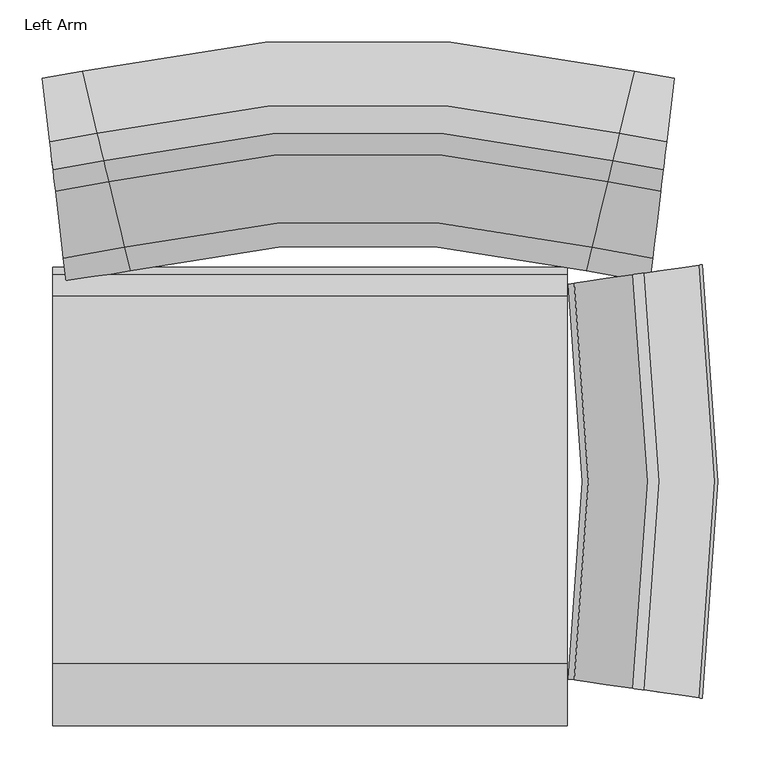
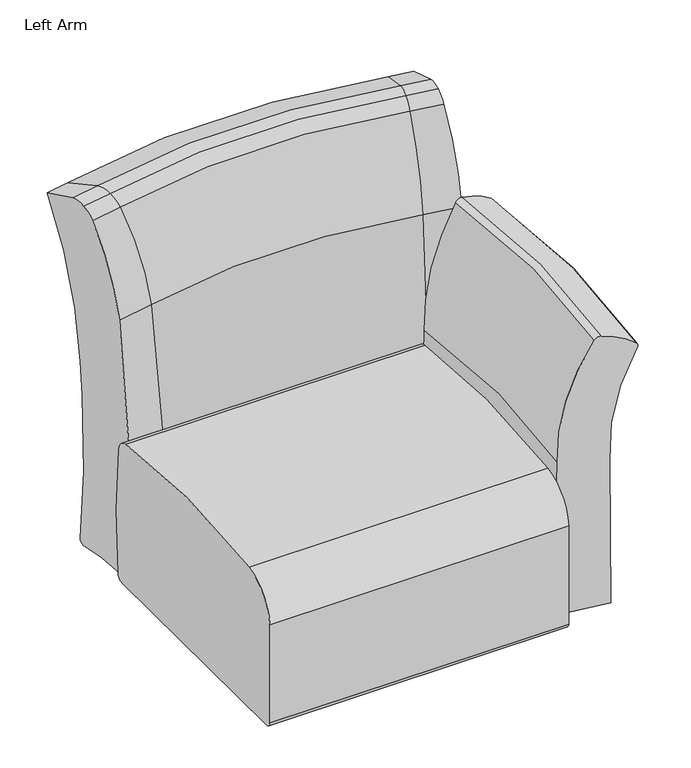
"""IFC4 building model written with IfcOpenShell, lengths in millimetres: furniture geometry, Steelcase Turnstone - Jenny - Seating - Lounge Chair : Left Arm."""

from ifc_helpers import new_model, si_unit, point, frame, frame_2d, origin, place, context, project, spatial, circle_curve, ellipse_curve, trimmed, segment, composite_curve, outline, extrude, source, transform, mapped, element, save
from ifc_brep_helpers import plane_surface, revolved_surface, advanced_brep


def left_arm_a03b13e4(model_context):
    return source(origin(), model_context, "Body", "SolidModel", [
        advanced_brep(
        [(338.5098126, 42.3528445, 662.4789574), (325.4819287, 44.2201227, 657.247673), (255.8979101, 54.1935554, 412.3486316), (248.568241, 55.2441122, 105.3934367), (268.92915, 52.3257962, 83.0261095), (356.1641561, 39.8224588, 83.0261095), (353.9234318, 40.1436204, 393.5179242), (406.2890311, 32.6380926, 620.5062548), (403.9913356, 32.9674199, 631.6323761), (338.5098126, 536.0945997, 662.4789574), (403.9913356, 545.4800243, 631.6323761), (406.2890311, 545.8093515, 620.5062548), (353.9234318, 538.3038238, 393.5179242), (356.1641561, 538.6249854, 83.0261095), (268.92915, 526.121648, 83.0261095), (248.568241, 523.203332, 105.3934367), (255.8979101, 524.2538887, 412.3486316), (325.4819287, 534.2273214, 657.247673)],
        [
            (0, 1, circle_curve(frame((335.7972968, 42.7416276, 650.2018378), z_axis=(-0.1418794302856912, -0.989883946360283, 0.0), x_axis=(-0.989883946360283, 0.1418794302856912, 0.0)), 12.5792115)),
            (1, 2, circle_curve(frame((662.6674144, -4.1084564, 426.9356418), z_axis=(-0.1418794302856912, -0.989883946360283, 0.0), x_axis=(-0.989883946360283, 0.1418794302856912, 0.0)), 411.1852807)),
            (2, 3, circle_curve(frame((-2293.785101, 419.6379839, 320.9153954), z_axis=(0.1418794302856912, 0.989883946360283, 0.0), x_axis=(-0.989883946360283, 0.1418794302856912, 0.0)), 2577.3616595)),
            (3, 4, circle_curve(frame((268.92915, 52.3257962, 103.6673891), z_axis=(-0.1418794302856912, -0.989883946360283, 0.0), x_axis=(-0.989883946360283, 0.1418794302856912, 0.0)), 20.6412796)),
            (4, 5),
            (5, 6, circle_curve(frame((-3376.7467903, 574.8581873, 210.7875713), z_axis=(-0.1418794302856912, -0.989883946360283, 0.0), x_axis=(-0.989883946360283, 0.1418794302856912, 0.0)), 3773.2228077)),
            (6, 7, circle_curve(frame((774.6383733, -20.157182, 414.1247817), z_axis=(0.1418794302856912, 0.989883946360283, 0.0), x_axis=(-0.989883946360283, 0.1418794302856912, 0.0)), 425.5136794)),
            (7, 8, circle_curve(frame((398.7600293, 33.7172196, 624.7246592), z_axis=(-0.1418794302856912, -0.989883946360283, 0.0), x_axis=(-0.989883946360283, 0.1418794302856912, 0.0)), 8.6974317)),
            (8, 0, circle_curve(frame((301.9143064, 47.5980549, 496.8440116), z_axis=(-0.1418794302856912, -0.989883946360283, 0.0), x_axis=(-0.989883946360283, 0.1418794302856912, 0.0)), 169.710573)),
            (9, 10, circle_curve(frame((301.9143064, 530.8493893, 496.8440116), z_axis=(-0.14187943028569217, 0.9898839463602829, 0.0), x_axis=(-0.9898839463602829, -0.14187943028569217, 0.0)), 169.710573)),
            (10, 11, circle_curve(frame((398.7600293, 544.7302245, 624.7246592), z_axis=(-0.14187943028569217, 0.9898839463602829, 0.0), x_axis=(-0.9898839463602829, -0.14187943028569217, 0.0)), 8.6974317)),
            (11, 12, circle_curve(frame((774.6383733, 598.6046262, 414.1247817), z_axis=(0.14187943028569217, -0.9898839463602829, 0.0), x_axis=(-0.9898839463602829, -0.14187943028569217, 0.0)), 425.5136794)),
            (12, 13, circle_curve(frame((-3376.7467903, 3.5892569, 210.7875713), z_axis=(-0.14187943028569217, 0.9898839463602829, 0.0), x_axis=(-0.9898839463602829, -0.14187943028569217, 0.0)), 3773.2228077)),
            (13, 14),
            (14, 15, circle_curve(frame((268.92915, 526.121648, 103.6673891), z_axis=(-0.14187943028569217, 0.9898839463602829, 0.0), x_axis=(-0.9898839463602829, -0.14187943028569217, 0.0)), 20.6412796)),
            (15, 16, circle_curve(frame((-2293.785101, 158.8094603, 320.9153954), z_axis=(0.14187943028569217, -0.9898839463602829, 0.0), x_axis=(-0.9898839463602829, -0.14187943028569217, 0.0)), 2577.3616595)),
            (16, 17, circle_curve(frame((662.6674144, 582.5559005, 426.9356418), z_axis=(-0.14187943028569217, 0.9898839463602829, 0.0), x_axis=(-0.9898839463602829, -0.14187943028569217, 0.0)), 411.1852807)),
            (17, 9, circle_curve(frame((335.7972968, 535.7058165, 650.2018378), z_axis=(-0.14187943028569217, 0.9898839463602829, 0.0), x_axis=(-0.9898839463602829, -0.14187943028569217, 0.0)), 12.5792115)),
            (17, 1, circle_curve(frame((-1383.8929209, 289.2237221, 657.247673), z_axis=(0.0, 0.0, -1.0), x_axis=(0.989883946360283, -0.1418794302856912, 0.0)), 1726.8436929)),
            (0, 9, circle_curve(frame((-1383.8929209, 289.2237221, 662.4789574), z_axis=(0.0, 0.0, 1.0), x_axis=(0.989883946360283, -0.1418794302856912, 0.0)), 1740.0047145)),
            (16, 2, circle_curve(frame((-1383.8929209, 289.2237221, 412.3486316), z_axis=(0.0, 0.0, -1.0), x_axis=(0.989883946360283, -0.1418794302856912, 0.0)), 1656.5485651)),
            (15, 3, circle_curve(frame((-1383.8929209, 289.2237221, 105.3934367), z_axis=(0.0, 0.0, -1.0), x_axis=(0.989883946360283, -0.1418794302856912, 0.0)), 1649.1439909)),
            (14, 4, circle_curve(frame((-1383.8929209, 289.2237221, 83.0261095), z_axis=(0.0, 0.0, -1.0), x_axis=(0.989883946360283, -0.1418794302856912, 0.0)), 1669.7129769)),
            (13, 5, circle_curve(frame((-1383.8929209, 289.2237221, 83.0261095), z_axis=(0.0, 0.0, -1.0), x_axis=(0.989883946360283, -0.1418794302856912, 0.0)), 1757.8394754)),
            (12, 6, circle_curve(frame((-1383.8929209, 289.2237221, 393.5179242), z_axis=(0.0, 0.0, -1.0), x_axis=(0.989883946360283, -0.1418794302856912, 0.0)), 1755.5758521)),
            (11, 7, circle_curve(frame((-1383.8929209, 289.2237221, 620.5062548), z_axis=(0.0, 0.0, -1.0), x_axis=(0.989883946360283, -0.1418794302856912, 0.0)), 1808.4765982)),
            (10, 8, circle_curve(frame((-1383.8929209, 289.2237221, 631.6323761), z_axis=(0.0, 0.0, -1.0), x_axis=(0.989883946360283, -0.1418794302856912, 0.0)), 1806.1554216)),
        ],
        [
            plane_surface(frame((321.793924, 44.7487221, 0.0), z_axis=(-0.14187943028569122, -0.9898839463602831, 0.0), x_axis=(0.0, 0.0, 1.0))),
            plane_surface(frame((321.793924, 533.6987221, 0.0), z_axis=(-0.1418794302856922, 0.9898839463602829, 0.0), x_axis=(0.0, 0.0, 1.0))),
            revolved_surface(trimmed(ellipse_curve(frame((335.7972968, 42.7416276, 650.2018378), z_axis=(-0.1418794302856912, -0.989883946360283, 0.0), x_axis=(-0.989883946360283, 0.1418794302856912, 0.0)), 12.5792115, 12.5792115), [point((338.5098126, 42.3528445, 662.4789574))], [point((325.4819287, 44.2201227, 657.247673))], True, "CARTESIAN"), (-1383.8929209, 289.2237221, 0.0), (0.0, 0.0, 1.0)),
            revolved_surface(trimmed(ellipse_curve(frame((662.6674144, -4.1084564, 426.9356418), z_axis=(-0.1418794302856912, -0.989883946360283, 0.0), x_axis=(-0.989883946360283, 0.1418794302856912, 0.0)), 411.1852807, 411.1852807), [point((325.4819287, 44.2201227, 657.247673))], [point((255.8979101, 54.1935554, 412.3486316))], True, "CARTESIAN"), (-1383.8929209, 289.2237221, 0.0), (0.0, 0.0, 1.0)),
            revolved_surface(trimmed(ellipse_curve(frame((-2293.785101, 419.6379839, 320.9153954), z_axis=(0.1418794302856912, 0.989883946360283, 0.0), x_axis=(-0.989883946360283, 0.1418794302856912, 0.0)), 2577.3616595, 2577.3616595), [point((255.8979101, 54.1935554, 412.3486316))], [point((248.568241, 55.2441122, 105.3934367))], True, "CARTESIAN"), (-1383.8929209, 289.2237221, 0.0), (0.0, 0.0, 1.0)),
            revolved_surface(trimmed(ellipse_curve(frame((268.92915, 52.3257962, 103.6673891), z_axis=(-0.1418794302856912, -0.989883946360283, 0.0), x_axis=(-0.989883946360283, 0.1418794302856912, 0.0)), 20.6412796, 20.6412796), [point((248.568241, 55.2441122, 105.3934367))], [point((268.92915, 52.3257962, 83.0261095))], True, "CARTESIAN"), (-1383.8929209, 289.2237221, 0.0), (0.0, 0.0, 1.0)),
            plane_surface(frame((-1383.8929209, 289.2237221, 83.0261095), z_axis=(0.0, 0.0, -1.0000000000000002), x_axis=(0.9898839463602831, -0.14187943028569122, 0.0))),
            revolved_surface(trimmed(ellipse_curve(frame((-3376.7467903, 574.8581873, 210.7875713), z_axis=(-0.1418794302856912, -0.989883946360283, 0.0), x_axis=(-0.989883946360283, 0.1418794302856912, 0.0)), 3773.2228077, 3773.2228077), [point((356.1641561, 39.8224588, 83.0261095))], [point((353.9234318, 40.1436204, 393.5179242))], True, "CARTESIAN"), (-1383.8929209, 289.2237221, 0.0), (0.0, 0.0, 1.0)),
            revolved_surface(trimmed(ellipse_curve(frame((774.6383733, -20.157182, 414.1247817), z_axis=(0.1418794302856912, 0.989883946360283, 0.0), x_axis=(-0.989883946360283, 0.1418794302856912, 0.0)), 425.5136794, 425.5136794), [point((353.9234318, 40.1436204, 393.5179242))], [point((406.2890311, 32.6380926, 620.5062548))], True, "CARTESIAN"), (-1383.8929209, 289.2237221, 0.0), (0.0, 0.0, 1.0)),
            revolved_surface(trimmed(ellipse_curve(frame((398.7600293, 33.7172196, 624.7246592), z_axis=(-0.1418794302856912, -0.989883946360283, 0.0), x_axis=(-0.989883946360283, 0.1418794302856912, 0.0)), 8.6974317, 8.6974317), [point((406.2890311, 32.6380926, 620.5062548))], [point((403.9913356, 32.9674199, 631.6323761))], True, "CARTESIAN"), (-1383.8929209, 289.2237221, 0.0), (0.0, 0.0, 1.0)),
            revolved_surface(trimmed(ellipse_curve(frame((301.9143064, 47.5980549, 496.8440116), z_axis=(-0.1418794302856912, -0.989883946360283, 0.0), x_axis=(-0.989883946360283, 0.1418794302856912, 0.0)), 169.710573, 169.710573), [point((403.9913356, 32.9674199, 631.6323761))], [point((338.5098126, 42.3528445, 662.4789574))], True, "CARTESIAN"), (-1383.8929209, 289.2237221, 0.0), (0.0, 0.0, 1.0)),
        ],
        [
            (0, [[1, 2, 3, 4, 5, 6, 7, 8, 9]]),
            (1, [[10, 11, 12, 13, 14, 15, 16, 17, 18]]),
            (2, [[19, -1, 20, -18]]),
            (3, [[21, -2, -19, -17]]),
            (4, [[22, -3, -21, -16]]),
            (5, [[23, -4, -22, -15]]),
            (6, [[24, -5, -23, -14]]),
            (7, [[25, -6, -24, -13]]),
            (8, [[26, -7, -25, -12]]),
            (9, [[27, -8, -26, -11]]),
            (10, [[-20, -9, -27, -10]]),
        ],
    ),
        extrude(outline(composite_curve([segment(trimmed(circle_curve(frame_2d((295.9448235, -1001.9734672)), 1409.8455938), [point((73.6948235, 390.2440215))], [point((509.3958902, 391.6201753))], False, "CARTESIAN"), True, "CONTINUOUS"), segment(trimmed(circle_curve(frame_2d((504.9855283, 362.825509)), 29.1304669), [point((509.3958902, 391.6201753))], [point((533.8942756, 366.4127691))], False, "CARTESIAN"), True, "CONTINUOUS"), segment(trimmed(circle_curve(frame_2d((-629.8512072, 222.0046519)), 1172.6709909), [point((533.8942756, 366.4127691))], [point((536.0042378, 95.7575362))], False, "CARTESIAN"), True, "CONTINUOUS"), segment(trimmed(circle_curve(frame_2d((523.173628, 97.1469259)), 12.9056171), [point((536.0042378, 95.7575362))], [point((523.4804674, 84.244957))], False, "CARTESIAN"), True, "CONTINUOUS"), segment(trimmed(circle_curve(frame_2d((320.8347088, 8605.0850806)), 8523.249481), [point((523.4804674, 84.244957))], [point((12.6556229, 87.4089088))], False, "CARTESIAN"), True, "CONTINUOUS"), segment(trimmed(circle_curve(frame_2d((13.132469, 100.5883266)), 13.1880413), [point((12.6556229, 87.4089088))], [point((0.0, 99.3789084))], False, "CARTESIAN"), True, "CONTINUOUS"), segment(trimmed(circle_curve(frame_2d((1151.5533041, 205.4297595)), 1156.4263034), [point((0.0, 99.3789084))], [point((0.0, 311.4806107))], False, "CARTESIAN"), True, "CONTINUOUS"), segment(trimmed(circle_curve(frame_2d((87.555619, 303.4172862)), 87.9261259), [point((0.0, 311.4806107))], [point((73.6948235, 390.2440215))], False, "CARTESIAN"), True, "CONTINUOUS")], self_intersect=False)), frame((-361.95, 0.0, 0.0), z_axis=(1.0, 0.0, 0.0), x_axis=(0.0, 1.0, 0.0)), (0.0, 0.0, 1.0), 609.6),
        advanced_brep(
        [(-365.286616, 691.4565759, 813.9027777), (-374.1581434, 766.5452606, 782.2939395), (-362.648411, 669.1267858, 474.5451921), (-361.9534589, 663.244705, 404.1661408), (-361.3770167, 658.3656933, 241.4197302), (-362.6146384, 668.8409343, 92.210125), (-361.3954165, 658.5214293, 82.3084573), (-349.0009614, 553.6146536, 81.9987921), (-346.7002803, 534.1416683, 97.0710008), (-349.0142051, 553.7267481, 627.8736036), (-358.4008193, 633.1751322, 797.7221008), (-361.3730638, 658.3322355, 814.4538477), (-326.9667617, 774.979302, 782.2939395), (-309.2801577, 701.4660474, 813.9027777), (-304.020535, 679.604757, 474.5451921), (-302.6350528, 673.8460877, 404.1661408), (-301.4858364, 669.0694421, 241.4197302), (-303.9532047, 679.3249029, 92.210125), (-301.5225189, 669.2219106, 82.3084573), (-276.8124763, 566.5161761, 81.9987921), (-272.2257535, 547.451752, 97.0710008), (-276.8388793, 566.6259188, 627.8736036), (-295.5523794, 644.4074023, 797.7221008), (-301.4779556, 669.0366863, 814.4538477), (326.9667617, 774.979302, 782.2939395), (309.2801577, 701.4660474, 813.9027777), (304.020535, 679.604757, 474.5451921), (302.6350528, 673.8460877, 404.1661408), (301.4858364, 669.0694421, 241.4197302), (303.9532047, 679.3249029, 92.210125), (301.5225189, 669.2219106, 82.3084573), (276.8124763, 566.5161761, 81.9987921), (272.2257535, 547.451752, 97.0710008), (276.8388793, 566.6259188, 627.8736036), (295.5523794, 644.4074023, 797.7221008), (301.4779556, 669.0366863, 814.4538477), (365.286616, 691.4565759, 813.9027777), (361.3730638, 658.3322355, 814.4538477), (358.4008193, 633.1751322, 797.7221008), (349.0142051, 553.7267481, 627.8736036), (346.7002803, 534.1416683, 97.0710008), (349.0009614, 553.6146536, 81.9987921), (361.3954165, 658.5214293, 82.3084573), (362.6146384, 668.8409343, 92.210125), (361.3770167, 658.3656933, 241.4197302), (361.9534589, 663.244705, 404.1661408), (362.648411, 669.1267858, 474.5451921), (374.1581434, 766.5452606, 782.2939395)],
        [
            (0, 1, circle_curve(frame((-341.1261096, 486.9618391, 215.0940543), z_axis=(-0.9930928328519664, -0.11733126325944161, 0.0), x_axis=(-0.11733126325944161, 0.9930928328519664, 0.0)), 633.2248531)),
            (1, 2, circle_curve(frame((-441.9489126, 1340.3269208, 428.618251), z_axis=(0.9930928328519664, 0.11733126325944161, 0.0), x_axis=(-0.11733126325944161, 0.9930928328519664, 0.0)), 677.4270991)),
            (2, 3, circle_curve(frame((-106.0716484, -1502.5411649, 623.1418041), z_axis=(-0.9930928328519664, -0.11733126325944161, 0.0), x_axis=(-0.11733126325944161, 0.9930928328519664, 0.0)), 2191.8152925)),
            (3, 4, circle_curve(frame((-498.0432857, 1815.1101831, 287.7047166), z_axis=(0.9930928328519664, 0.11733126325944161, 0.0), x_axis=(-0.11733126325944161, 0.9930928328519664, 0.0)), 1165.7091335)),
            (4, 5, circle_curve(frame((-645.5581159, 3063.6769889, 337.6638027), z_axis=(0.9930928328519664, 0.11733126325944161, 0.0), x_axis=(-0.11733126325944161, 0.9930928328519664, 0.0)), 2423.9521958)),
            (5, 6, circle_curve(frame((-361.5543466, 659.8666153, 91.290321), z_axis=(-0.9930928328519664, -0.11733126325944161, 0.0), x_axis=(-0.11733126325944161, 0.9930928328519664, 0.0)), 9.0834278)),
            (6, 7, circle_curve(frame((-355.3163018, 607.0677497, -261.2499371), z_axis=(0.9930928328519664, 0.11733126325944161, 0.0), x_axis=(-0.11733126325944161, 0.9930928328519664, 0.0)), 347.443243)),
            (7, 8, circle_curve(frame((-348.6908883, 550.9901919, 98.8517567), z_axis=(-0.9930928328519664, -0.11733126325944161, 0.0), x_axis=(-0.11733126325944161, 0.9930928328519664, 0.0)), 17.0589085)),
            (8, 9, circle_curve(frame((-566.1189152, 2391.3029031, 293.3582769), z_axis=(-0.9930928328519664, -0.11733126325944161, 0.0), x_axis=(-0.11733126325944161, 0.9930928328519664, 0.0)), 1880.3513194)),
            (9, 10, circle_curve(frame((-390.9633635, 908.7847898, 563.2382651), z_axis=(-0.9930928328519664, -0.11733126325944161, 0.0), x_axis=(-0.11733126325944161, 0.9930928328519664, 0.0)), 363.3230957)),
            (10, 11, circle_curve(frame((-363.2305214, 674.0537729, 762.9432742), z_axis=(-0.9930928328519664, -0.11733126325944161, 0.0), x_axis=(-0.11733126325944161, 0.9930928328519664, 0.0)), 53.8883667)),
            (11, 0, circle_curve(frame((-363.2305214, 674.0537729, 762.9432742), z_axis=(-0.9930928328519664, -0.11733126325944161, 0.0), x_axis=(-0.11733126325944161, 0.9930928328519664, 0.0)), 53.8883667)),
            (12, 1, circle_curve(frame((-421.6517332, 1168.5314176, 782.2939395), z_axis=(0.0, 0.0, -1.0), x_axis=(0.1173312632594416, -0.9930928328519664, 0.0)), 404.7820543)),
            (0, 13, circle_curve(frame((-421.6517332, 1168.5314176, 813.9027777), z_axis=(0.0, 0.0, 1.0), x_axis=(0.1173312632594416, -0.9930928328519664, 0.0)), 480.3929964)),
            (13, 12, circle_curve(frame((-261.1128813, 501.2617994, 215.0940543), z_axis=(-0.9722568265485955, -0.23391593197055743, 0.0), x_axis=(-0.23391593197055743, 0.9722568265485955, 0.0)), 633.2248531)),
            (14, 2, circle_curve(frame((-421.6517332, 1168.5314176, 474.5451921), z_axis=(0.0, 0.0, -1.0), x_axis=(0.1173312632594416, -0.9930928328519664, 0.0)), 502.8780948)),
            (12, 14, circle_curve(frame((-462.1169383, 1336.7224922, 428.618251), z_axis=(0.9722568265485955, 0.23391593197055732, 0.0), x_axis=(-0.23391593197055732, 0.9722568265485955, 0.0)), 677.4270991)),
            (15, 3, circle_curve(frame((-421.6517332, 1168.5314176, 404.1661408), z_axis=(0.0, 0.0, -1.0), x_axis=(0.1173312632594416, -0.9930928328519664, 0.0)), 508.8010867)),
            (14, 15, circle_curve(frame((207.500358, -1446.4995912, 623.1418041), z_axis=(-0.9722568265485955, -0.2339159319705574, 0.0), x_axis=(-0.2339159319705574, 0.9722568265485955, 0.0)), 2191.8152925)),
            (16, 4, circle_curve(frame((-421.6517332, 1168.5314176, 241.4197302), z_axis=(0.0, 0.0, -1.0), x_axis=(0.1173312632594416, -0.9930928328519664, 0.0)), 513.714033)),
            (15, 16, circle_curve(frame((-573.9487486, 1801.5443625, 287.7047166), z_axis=(0.9722568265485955, 0.23391593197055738, 0.0), x_axis=(-0.23391593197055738, 0.9722568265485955, 0.0)), 1165.7091335)),
            (17, 5, circle_curve(frame((-421.6517332, 1168.5314176, 92.210125), z_axis=(0.0, 0.0, -1.0), x_axis=(0.1173312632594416, -0.9930928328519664, 0.0)), 503.1659344)),
            (16, 17, circle_curve(frame((-868.0397524, 3023.9150817, 337.6638027), z_axis=(0.9722568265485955, 0.2339159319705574, 0.0), x_axis=(-0.2339159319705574, 0.9722568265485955, 0.0)), 2423.9521958)),
            (18, 6, circle_curve(frame((-421.6517332, 1168.5314176, 82.3084573), z_axis=(0.0, 0.0, -1.0), x_axis=(0.1173312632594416, -0.9930928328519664, 0.0)), 513.5572138)),
            (17, 18, circle_curve(frame((-301.8393678, 670.5388734, 91.290321), z_axis=(-0.9722568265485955, -0.23391593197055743, 0.0), x_axis=(-0.23391593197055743, 0.9722568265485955, 0.0)), 9.0834278)),
            (19, 7, circle_curve(frame((-421.6517332, 1168.5314176, 81.9987921), z_axis=(0.0, 0.0, -1.0), x_axis=(0.1173312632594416, -0.9930928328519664, 0.0)), 619.193638)),
            (18, 19, circle_curve(frame((-289.4029717, 618.8477768, -261.2499371), z_axis=(0.9722568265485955, 0.2339159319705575, 0.0), x_axis=(-0.2339159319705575, 0.9722568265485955, 0.0)), 347.443243)),
            (20, 8, circle_curve(frame((-421.6517332, 1168.5314176, 97.0710008), z_axis=(0.0, 0.0, -1.0), x_axis=(0.1173312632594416, -0.9930928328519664, 0.0)), 638.8020619)),
            (19, 20, circle_curve(frame((-276.194303, 563.9467781, 98.8517567), z_axis=(-0.9722568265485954, -0.23391593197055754, 0.0), x_axis=(-0.23391593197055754, 0.9722568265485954, 0.0)), 17.0589085)),
            (21, 9, circle_curve(frame((-421.6517332, 1168.5314176, 627.8736036), z_axis=(0.0, 0.0, -1.0), x_axis=(0.1173312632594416, -0.9930928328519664, 0.0)), 619.0807637)),
            (20, 21, circle_curve(frame((-709.6668332, 2365.6480262, 293.3582769), z_axis=(-0.9722568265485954, -0.23391593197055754, 0.0), x_axis=(-0.23391593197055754, 0.9722568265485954, 0.0)), 1880.3513194)),
            (22, 10, circle_curve(frame((-421.6517332, 1168.5314176, 797.7221008), z_axis=(0.0, 0.0, -1.0), x_axis=(0.1173312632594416, -0.9930928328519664, 0.0)), 539.0797997)),
            (21, 22, circle_curve(frame((-360.4702681, 914.2345144, 563.2382651), z_axis=(-0.9722568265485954, -0.23391593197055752, 0.0), x_axis=(-0.23391593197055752, 0.9722568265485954, 0.0)), 363.3230957)),
            (23, 11, circle_curve(frame((-421.6517332, 1168.5314176, 814.4538477), z_axis=(0.0, 0.0, -1.0), x_axis=(0.1173312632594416, -0.9930928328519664, 0.0)), 513.7477235)),
            (22, 23, circle_curve(frame((-305.1810516, 684.4283713, 762.9432742), z_axis=(-0.9722568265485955, -0.2339159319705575, 0.0), x_axis=(-0.2339159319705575, 0.9722568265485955, 0.0)), 53.8883667)),
            (23, 13, circle_curve(frame((-305.1810516, 684.4283713, 762.9432742), z_axis=(-0.9722568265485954, -0.23391593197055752, 0.0), x_axis=(-0.23391593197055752, 0.9722568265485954, 0.0)), 53.8883667)),
            (24, 12, circle_curve(frame((0.0, -584.0374329, 782.2939395), z_axis=(0.0, 0.0, 1.0), x_axis=(-0.23391593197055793, 0.9722568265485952, 0.0)), 1397.7960327)),
            (13, 25, circle_curve(frame((0.0, -584.0374329, 813.9027777), z_axis=(0.0, 0.0, -1.0), x_axis=(-0.23391593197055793, 0.9722568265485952, 0.0)), 1322.1850906)),
            (25, 24, circle_curve(frame((261.1128813, 501.2617994, 215.0940543), z_axis=(-0.9722568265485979, 0.23391593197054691, 0.0), x_axis=(0.23391593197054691, 0.9722568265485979, 0.0)), 633.2248531)),
            (26, 14, circle_curve(frame((0.0, -584.0374329, 474.5451921), z_axis=(0.0, 0.0, 1.0), x_axis=(-0.23391593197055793, 0.9722568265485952, 0.0)), 1299.6999922)),
            (24, 26, circle_curve(frame((462.1169383, 1336.7224922, 428.618251), z_axis=(0.9722568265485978, -0.23391593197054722, 0.0), x_axis=(0.23391593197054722, 0.9722568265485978, 0.0)), 677.4270991)),
            (27, 15, circle_curve(frame((0.0, -584.0374329, 404.1661408), z_axis=(0.0, 0.0, 1.0), x_axis=(-0.23391593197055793, 0.9722568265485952, 0.0)), 1293.7770003)),
            (26, 27, circle_curve(frame((-207.500358, -1446.4995912, 623.1418041), z_axis=(-0.9722568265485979, 0.23391593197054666, 0.0), x_axis=(0.23391593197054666, 0.9722568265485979, 0.0)), 2191.8152925)),
            (28, 16, circle_curve(frame((0.0, -584.0374329, 241.4197302), z_axis=(0.0, 0.0, 1.0), x_axis=(-0.23391593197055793, 0.9722568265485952, 0.0)), 1288.864054)),
            (27, 28, circle_curve(frame((573.9487486, 1801.5443625, 287.7047166), z_axis=(0.9722568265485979, -0.23391593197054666, 0.0), x_axis=(0.23391593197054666, 0.9722568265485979, 0.0)), 1165.7091335)),
            (29, 17, circle_curve(frame((0.0, -584.0374329, 92.210125), z_axis=(0.0, 0.0, 1.0), x_axis=(-0.23391593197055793, 0.9722568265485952, 0.0)), 1299.4121525)),
            (28, 29, circle_curve(frame((868.0397524, 3023.9150817, 337.6638027), z_axis=(0.9722568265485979, -0.23391593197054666, 0.0), x_axis=(0.23391593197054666, 0.9722568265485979, 0.0)), 2423.9521958)),
            (30, 18, circle_curve(frame((0.0, -584.0374329, 82.3084573), z_axis=(0.0, 0.0, 1.0), x_axis=(-0.23391593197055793, 0.9722568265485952, 0.0)), 1289.0208732)),
            (29, 30, circle_curve(frame((301.8393678, 670.5388734, 91.290321), z_axis=(-0.9722568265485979, 0.23391593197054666, 0.0), x_axis=(0.23391593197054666, 0.9722568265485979, 0.0)), 9.0834278)),
            (31, 19, circle_curve(frame((0.0, -584.0374329, 81.9987921), z_axis=(0.0, 0.0, 1.0), x_axis=(-0.23391593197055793, 0.9722568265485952, 0.0)), 1183.384449)),
            (30, 31, circle_curve(frame((289.4029717, 618.8477768, -261.2499371), z_axis=(0.9722568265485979, -0.23391593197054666, 0.0), x_axis=(0.23391593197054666, 0.9722568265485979, 0.0)), 347.443243)),
            (32, 20, circle_curve(frame((0.0, -584.0374329, 97.0710008), z_axis=(0.0, 0.0, 1.0), x_axis=(-0.23391593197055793, 0.9722568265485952, 0.0)), 1163.776025)),
            (31, 32, circle_curve(frame((276.194303, 563.9467781, 98.8517567), z_axis=(-0.9722568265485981, 0.23391593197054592, 0.0), x_axis=(0.23391593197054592, 0.9722568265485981, 0.0)), 17.0589085)),
            (33, 21, circle_curve(frame((0.0, -584.0374329, 627.8736036), z_axis=(0.0, 0.0, 1.0), x_axis=(-0.23391593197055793, 0.9722568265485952, 0.0)), 1183.4973232)),
            (32, 33, circle_curve(frame((709.6668332, 2365.6480262, 293.3582769), z_axis=(-0.9722568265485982, 0.23391593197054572, 0.0), x_axis=(0.23391593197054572, 0.9722568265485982, 0.0)), 1880.3513194)),
            (34, 22, circle_curve(frame((0.0, -584.0374329, 797.7221008), z_axis=(0.0, 0.0, 1.0), x_axis=(-0.23391593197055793, 0.9722568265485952, 0.0)), 1263.4982873)),
            (33, 34, circle_curve(frame((360.4702681, 914.2345144, 563.2382651), z_axis=(-0.9722568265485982, 0.2339159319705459, 0.0), x_axis=(0.2339159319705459, 0.9722568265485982, 0.0)), 363.3230957)),
            (35, 23, circle_curve(frame((0.0, -584.0374329, 814.4538477), z_axis=(0.0, 0.0, 1.0), x_axis=(-0.23391593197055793, 0.9722568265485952, 0.0)), 1288.8303635)),
            (34, 35, circle_curve(frame((305.1810516, 684.4283713, 762.9432742), z_axis=(-0.972256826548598, 0.23391593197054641, 0.0), x_axis=(0.23391593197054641, 0.972256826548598, 0.0)), 53.8883667)),
            (35, 25, circle_curve(frame((305.1810516, 684.4283713, 762.9432742), z_axis=(-0.972256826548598, 0.23391593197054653, 0.0), x_axis=(0.23391593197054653, 0.972256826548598, 0.0)), 53.8883667)),
            (36, 37, circle_curve(frame((363.2305214, 674.0537729, 762.9432742), z_axis=(0.9930928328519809, -0.11733126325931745, 0.0), x_axis=(0.11733126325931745, 0.9930928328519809, 0.0)), 53.8883667)),
            (37, 38, circle_curve(frame((363.2305214, 674.0537729, 762.9432742), z_axis=(0.9930928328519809, -0.11733126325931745, 0.0), x_axis=(0.11733126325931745, 0.9930928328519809, 0.0)), 53.8883667)),
            (38, 39, circle_curve(frame((390.9633635, 908.7847898, 563.2382651), z_axis=(0.9930928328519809, -0.11733126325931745, 0.0), x_axis=(0.11733126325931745, 0.9930928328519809, 0.0)), 363.3230957)),
            (39, 40, circle_curve(frame((566.1189152, 2391.3029031, 293.3582769), z_axis=(0.9930928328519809, -0.11733126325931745, 0.0), x_axis=(0.11733126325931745, 0.9930928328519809, 0.0)), 1880.3513194)),
            (40, 41, circle_curve(frame((348.6908883, 550.9901919, 98.8517567), z_axis=(0.9930928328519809, -0.11733126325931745, 0.0), x_axis=(0.11733126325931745, 0.9930928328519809, 0.0)), 17.0589085)),
            (41, 42, circle_curve(frame((355.3163018, 607.0677497, -261.2499371), z_axis=(-0.9930928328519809, 0.11733126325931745, 0.0), x_axis=(0.11733126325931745, 0.9930928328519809, 0.0)), 347.443243)),
            (42, 43, circle_curve(frame((361.5543466, 659.8666153, 91.290321), z_axis=(0.9930928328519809, -0.11733126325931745, 0.0), x_axis=(0.11733126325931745, 0.9930928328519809, 0.0)), 9.0834278)),
            (43, 44, circle_curve(frame((645.5581159, 3063.6769889, 337.6638027), z_axis=(-0.9930928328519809, 0.11733126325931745, 0.0), x_axis=(0.11733126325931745, 0.9930928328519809, 0.0)), 2423.9521958)),
            (44, 45, circle_curve(frame((498.0432857, 1815.1101831, 287.7047166), z_axis=(-0.9930928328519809, 0.11733126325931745, 0.0), x_axis=(0.11733126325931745, 0.9930928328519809, 0.0)), 1165.7091335)),
            (45, 46, circle_curve(frame((106.0716484, -1502.5411649, 623.1418041), z_axis=(0.9930928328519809, -0.11733126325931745, 0.0), x_axis=(0.11733126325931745, 0.9930928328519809, 0.0)), 2191.8152925)),
            (46, 47, circle_curve(frame((441.9489126, 1340.3269208, 428.618251), z_axis=(-0.9930928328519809, 0.11733126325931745, 0.0), x_axis=(0.11733126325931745, 0.9930928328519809, 0.0)), 677.4270991)),
            (47, 36, circle_curve(frame((341.1261096, 486.9618391, 215.0940543), z_axis=(0.9930928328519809, -0.11733126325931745, 0.0), x_axis=(0.11733126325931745, 0.9930928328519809, 0.0)), 633.2248531)),
            (47, 24, circle_curve(frame((421.6517332, 1168.5314176, 782.2939395), z_axis=(0.0, 0.0, -1.0), x_axis=(-0.2339159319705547, -0.972256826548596, 0.0)), 404.7820543)),
            (25, 36, circle_curve(frame((421.6517332, 1168.5314176, 813.9027777), z_axis=(0.0, 0.0, 1.0), x_axis=(-0.2339159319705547, -0.972256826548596, 0.0)), 480.3929964)),
            (46, 26, circle_curve(frame((421.6517332, 1168.5314176, 474.5451921), z_axis=(0.0, 0.0, -1.0), x_axis=(-0.2339159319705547, -0.972256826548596, 0.0)), 502.8780948)),
            (45, 27, circle_curve(frame((421.6517332, 1168.5314176, 404.1661408), z_axis=(0.0, 0.0, -1.0), x_axis=(-0.2339159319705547, -0.972256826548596, 0.0)), 508.8010867)),
            (44, 28, circle_curve(frame((421.6517332, 1168.5314176, 241.4197302), z_axis=(0.0, 0.0, -1.0), x_axis=(-0.2339159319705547, -0.972256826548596, 0.0)), 513.714033)),
            (43, 29, circle_curve(frame((421.6517332, 1168.5314176, 92.210125), z_axis=(0.0, 0.0, -1.0), x_axis=(-0.2339159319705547, -0.972256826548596, 0.0)), 503.1659344)),
            (42, 30, circle_curve(frame((421.6517332, 1168.5314176, 82.3084573), z_axis=(0.0, 0.0, -1.0), x_axis=(-0.2339159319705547, -0.972256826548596, 0.0)), 513.5572138)),
            (41, 31, circle_curve(frame((421.6517332, 1168.5314176, 81.9987921), z_axis=(0.0, 0.0, -1.0), x_axis=(-0.2339159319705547, -0.972256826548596, 0.0)), 619.193638)),
            (40, 32, circle_curve(frame((421.6517332, 1168.5314176, 97.0710008), z_axis=(0.0, 0.0, -1.0), x_axis=(-0.2339159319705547, -0.972256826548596, 0.0)), 638.8020619)),
            (39, 33, circle_curve(frame((421.6517332, 1168.5314176, 627.8736036), z_axis=(0.0, 0.0, -1.0), x_axis=(-0.2339159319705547, -0.972256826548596, 0.0)), 619.0807637)),
            (38, 34, circle_curve(frame((421.6517332, 1168.5314176, 797.7221008), z_axis=(0.0, 0.0, -1.0), x_axis=(-0.2339159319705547, -0.972256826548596, 0.0)), 539.0797997)),
            (37, 35, circle_curve(frame((421.6517332, 1168.5314176, 814.4538477), z_axis=(0.0, 0.0, -1.0), x_axis=(-0.2339159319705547, -0.972256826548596, 0.0)), 513.7477235)),
        ],
        [
            plane_surface(frame((-355.6, 609.4689735, 0.0), z_axis=(-0.9930928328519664, -0.11733126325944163, 0.0), x_axis=(0.0, 0.0, 1.0))),
            revolved_surface(trimmed(ellipse_curve(frame((-341.1261096, 486.9618391, 215.0940543), z_axis=(-0.9930928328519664, -0.11733126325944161, 0.0), x_axis=(-0.11733126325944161, 0.9930928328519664, 0.0)), 633.2248531, 633.2248531), [point((-365.286616, 691.4565759, 813.9027777))], [point((-374.1581434, 766.5452606, 782.2939395))], True, "CARTESIAN"), (-421.6517332, 1168.5314176, 0.0), (0.0, 0.0, 1.0)),
            revolved_surface(trimmed(ellipse_curve(frame((-441.9489126, 1340.3269208, 428.618251), z_axis=(0.9930928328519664, 0.11733126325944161, 0.0), x_axis=(-0.11733126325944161, 0.9930928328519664, 0.0)), 677.4270991, 677.4270991), [point((-374.1581434, 766.5452606, 782.2939395))], [point((-362.648411, 669.1267858, 474.5451921))], True, "CARTESIAN"), (-421.6517332, 1168.5314176, 0.0), (0.0, 0.0, 1.0)),
            revolved_surface(trimmed(ellipse_curve(frame((-106.0716484, -1502.5411649, 623.1418041), z_axis=(-0.9930928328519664, -0.11733126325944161, 0.0), x_axis=(-0.11733126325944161, 0.9930928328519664, 0.0)), 2191.8152925, 2191.8152925), [point((-362.648411, 669.1267858, 474.5451921))], [point((-361.9534589, 663.244705, 404.1661408))], True, "CARTESIAN"), (-421.6517332, 1168.5314176, 0.0), (0.0, 0.0, 1.0)),
            revolved_surface(trimmed(ellipse_curve(frame((-498.0432857, 1815.1101831, 287.7047166), z_axis=(0.9930928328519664, 0.11733126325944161, 0.0), x_axis=(-0.11733126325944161, 0.9930928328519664, 0.0)), 1165.7091335, 1165.7091335), [point((-361.9534589, 663.244705, 404.1661408))], [point((-361.3770167, 658.3656933, 241.4197302))], True, "CARTESIAN"), (-421.6517332, 1168.5314176, 0.0), (0.0, 0.0, 1.0)),
            revolved_surface(trimmed(ellipse_curve(frame((-645.5581159, 3063.6769889, 337.6638027), z_axis=(0.9930928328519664, 0.11733126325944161, 0.0), x_axis=(-0.11733126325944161, 0.9930928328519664, 0.0)), 2423.9521958, 2423.9521958), [point((-361.3770167, 658.3656933, 241.4197302))], [point((-362.6146384, 668.8409343, 92.210125))], True, "CARTESIAN"), (-421.6517332, 1168.5314176, 0.0), (0.0, 0.0, 1.0)),
            revolved_surface(trimmed(ellipse_curve(frame((-361.5543466, 659.8666153, 91.290321), z_axis=(-0.9930928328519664, -0.11733126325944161, 0.0), x_axis=(-0.11733126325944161, 0.9930928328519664, 0.0)), 9.0834278, 9.0834278), [point((-362.6146384, 668.8409343, 92.210125))], [point((-361.3954165, 658.5214293, 82.3084573))], True, "CARTESIAN"), (-421.6517332, 1168.5314176, 0.0), (0.0, 0.0, 1.0)),
            revolved_surface(trimmed(ellipse_curve(frame((-355.3163018, 607.0677497, -261.2499371), z_axis=(0.9930928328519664, 0.11733126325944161, 0.0), x_axis=(-0.11733126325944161, 0.9930928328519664, 0.0)), 347.443243, 347.443243), [point((-361.3954165, 658.5214293, 82.3084573))], [point((-349.0009614, 553.6146536, 81.9987921))], True, "CARTESIAN"), (-421.6517332, 1168.5314176, 0.0), (0.0, 0.0, 1.0)),
            revolved_surface(trimmed(ellipse_curve(frame((-348.6908883, 550.9901919, 98.8517567), z_axis=(-0.9930928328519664, -0.11733126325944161, 0.0), x_axis=(-0.11733126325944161, 0.9930928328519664, 0.0)), 17.0589085, 17.0589085), [point((-349.0009614, 553.6146536, 81.9987921))], [point((-346.7002803, 534.1416683, 97.0710008))], True, "CARTESIAN"), (-421.6517332, 1168.5314176, 0.0), (0.0, 0.0, 1.0)),
            revolved_surface(trimmed(ellipse_curve(frame((-566.1189152, 2391.3029031, 293.3582769), z_axis=(-0.9930928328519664, -0.11733126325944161, 0.0), x_axis=(-0.11733126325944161, 0.9930928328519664, 0.0)), 1880.3513194, 1880.3513194), [point((-346.7002803, 534.1416683, 97.0710008))], [point((-349.0142051, 553.7267481, 627.8736036))], True, "CARTESIAN"), (-421.6517332, 1168.5314176, 0.0), (0.0, 0.0, 1.0)),
            revolved_surface(trimmed(ellipse_curve(frame((-390.9633635, 908.7847898, 563.2382651), z_axis=(-0.9930928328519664, -0.11733126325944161, 0.0), x_axis=(-0.11733126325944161, 0.9930928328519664, 0.0)), 363.3230957, 363.3230957), [point((-349.0142051, 553.7267481, 627.8736036))], [point((-358.4008193, 633.1751322, 797.7221008))], True, "CARTESIAN"), (-421.6517332, 1168.5314176, 0.0), (0.0, 0.0, 1.0)),
            revolved_surface(trimmed(ellipse_curve(frame((-363.2305214, 674.0537729, 762.9432742), z_axis=(-0.9930928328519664, -0.11733126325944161, 0.0), x_axis=(-0.11733126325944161, 0.9930928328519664, 0.0)), 53.8883667, 53.8883667), [point((-358.4008193, 633.1751322, 797.7221008))], [point((-361.3730638, 658.3322355, 814.4538477))], True, "CARTESIAN"), (-421.6517332, 1168.5314176, 0.0), (0.0, 0.0, 1.0)),
            revolved_surface(trimmed(ellipse_curve(frame((-363.2305214, 674.0537729, 762.9432742), z_axis=(-0.9930928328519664, -0.11733126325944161, 0.0), x_axis=(-0.11733126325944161, 0.9930928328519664, 0.0)), 53.8883667, 53.8883667), [point((-361.3730638, 658.3322355, 814.4538477))], [point((-365.286616, 691.4565759, 813.9027777))], True, "CARTESIAN"), (-421.6517332, 1168.5314176, 0.0), (0.0, 0.0, 1.0)),
            revolved_surface(trimmed(ellipse_curve(frame((-261.1128813, 501.2617994, 215.0940543), z_axis=(-0.9722568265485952, -0.23391593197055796, 0.0), x_axis=(-0.23391593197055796, 0.9722568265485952, 0.0)), 633.2248531, 633.2248531), [point((-309.2801577, 701.4660474, 813.9027777))], [point((-326.9667617, 774.979302, 782.2939395))], True, "CARTESIAN"), (0.0, -584.0374329, 0.0), (0.0, 0.0, -1.0)),
            revolved_surface(trimmed(ellipse_curve(frame((-462.1169383, 1336.7224922, 428.618251), z_axis=(0.9722568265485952, 0.23391593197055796, 0.0), x_axis=(-0.23391593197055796, 0.9722568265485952, 0.0)), 677.4270991, 677.4270991), [point((-326.9667617, 774.979302, 782.2939395))], [point((-304.020535, 679.604757, 474.5451921))], True, "CARTESIAN"), (0.0, -584.0374329, 0.0), (0.0, 0.0, -1.0)),
            revolved_surface(trimmed(ellipse_curve(frame((207.500358, -1446.4995912, 623.1418041), z_axis=(-0.9722568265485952, -0.23391593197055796, 0.0), x_axis=(-0.23391593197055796, 0.9722568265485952, 0.0)), 2191.8152925, 2191.8152925), [point((-304.020535, 679.604757, 474.5451921))], [point((-302.6350528, 673.8460877, 404.1661408))], True, "CARTESIAN"), (0.0, -584.0374329, 0.0), (0.0, 0.0, -1.0)),
            revolved_surface(trimmed(ellipse_curve(frame((-573.9487486, 1801.5443625, 287.7047166), z_axis=(0.9722568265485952, 0.23391593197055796, 0.0), x_axis=(-0.23391593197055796, 0.9722568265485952, 0.0)), 1165.7091335, 1165.7091335), [point((-302.6350528, 673.8460877, 404.1661408))], [point((-301.4858364, 669.0694421, 241.4197302))], True, "CARTESIAN"), (0.0, -584.0374329, 0.0), (0.0, 0.0, -1.0)),
            revolved_surface(trimmed(ellipse_curve(frame((-868.0397524, 3023.9150817, 337.6638027), z_axis=(0.9722568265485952, 0.23391593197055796, 0.0), x_axis=(-0.23391593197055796, 0.9722568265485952, 0.0)), 2423.9521958, 2423.9521958), [point((-301.4858364, 669.0694421, 241.4197302))], [point((-303.9532047, 679.3249029, 92.210125))], True, "CARTESIAN"), (0.0, -584.0374329, 0.0), (0.0, 0.0, -1.0)),
            revolved_surface(trimmed(ellipse_curve(frame((-301.8393678, 670.5388734, 91.290321), z_axis=(-0.9722568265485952, -0.23391593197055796, 0.0), x_axis=(-0.23391593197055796, 0.9722568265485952, 0.0)), 9.0834278, 9.0834278), [point((-303.9532047, 679.3249029, 92.210125))], [point((-301.5225189, 669.2219106, 82.3084573))], True, "CARTESIAN"), (0.0, -584.0374329, 0.0), (0.0, 0.0, -1.0)),
            revolved_surface(trimmed(ellipse_curve(frame((-289.4029717, 618.8477768, -261.2499371), z_axis=(0.9722568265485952, 0.23391593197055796, 0.0), x_axis=(-0.23391593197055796, 0.9722568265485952, 0.0)), 347.443243, 347.443243), [point((-301.5225189, 669.2219106, 82.3084573))], [point((-276.8124763, 566.5161761, 81.9987921))], True, "CARTESIAN"), (0.0, -584.0374329, 0.0), (0.0, 0.0, -1.0)),
            revolved_surface(trimmed(ellipse_curve(frame((-276.194303, 563.9467781, 98.8517567), z_axis=(-0.9722568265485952, -0.23391593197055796, 0.0), x_axis=(-0.23391593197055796, 0.9722568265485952, 0.0)), 17.0589085, 17.0589085), [point((-276.8124763, 566.5161761, 81.9987921))], [point((-272.2257535, 547.451752, 97.0710008))], True, "CARTESIAN"), (0.0, -584.0374329, 0.0), (0.0, 0.0, -1.0)),
            revolved_surface(trimmed(ellipse_curve(frame((-709.6668332, 2365.6480262, 293.3582769), z_axis=(-0.9722568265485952, -0.23391593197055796, 0.0), x_axis=(-0.23391593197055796, 0.9722568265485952, 0.0)), 1880.3513194, 1880.3513194), [point((-272.2257535, 547.451752, 97.0710008))], [point((-276.8388793, 566.6259188, 627.8736036))], True, "CARTESIAN"), (0.0, -584.0374329, 0.0), (0.0, 0.0, -1.0)),
            revolved_surface(trimmed(ellipse_curve(frame((-360.4702681, 914.2345144, 563.2382651), z_axis=(-0.9722568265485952, -0.23391593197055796, 0.0), x_axis=(-0.23391593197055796, 0.9722568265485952, 0.0)), 363.3230957, 363.3230957), [point((-276.8388793, 566.6259188, 627.8736036))], [point((-295.5523794, 644.4074023, 797.7221008))], True, "CARTESIAN"), (0.0, -584.0374329, 0.0), (0.0, 0.0, -1.0)),
            revolved_surface(trimmed(ellipse_curve(frame((-305.1810516, 684.4283713, 762.9432742), z_axis=(-0.9722568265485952, -0.23391593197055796, 0.0), x_axis=(-0.23391593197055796, 0.9722568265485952, 0.0)), 53.8883667, 53.8883667), [point((-295.5523794, 644.4074023, 797.7221008))], [point((-301.4779556, 669.0366863, 814.4538477))], True, "CARTESIAN"), (0.0, -584.0374329, 0.0), (0.0, 0.0, -1.0)),
            revolved_surface(trimmed(ellipse_curve(frame((-305.1810516, 684.4283713, 762.9432742), z_axis=(-0.9722568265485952, -0.23391593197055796, 0.0), x_axis=(-0.23391593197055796, 0.9722568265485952, 0.0)), 53.8883667, 53.8883667), [point((-301.4779556, 669.0366863, 814.4538477))], [point((-309.2801577, 701.4660474, 813.9027777))], True, "CARTESIAN"), (0.0, -584.0374329, 0.0), (0.0, 0.0, -1.0)),
            plane_surface(frame((355.6, 609.4689735, 0.0), z_axis=(0.993092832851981, -0.11733126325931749, 0.0), x_axis=(0.0, 0.0, 1.0))),
            revolved_surface(trimmed(ellipse_curve(frame((261.1128813, 501.2617994, 215.0940543), z_axis=(-0.972256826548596, 0.23391593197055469, 0.0), x_axis=(0.23391593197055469, 0.972256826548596, 0.0)), 633.2248531, 633.2248531), [point((309.2801577, 701.4660474, 813.9027777))], [point((326.9667617, 774.979302, 782.2939395))], True, "CARTESIAN"), (421.6517332, 1168.5314176, 0.0), (0.0, 0.0, 1.0)),
            revolved_surface(trimmed(ellipse_curve(frame((462.1169383, 1336.7224922, 428.618251), z_axis=(0.972256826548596, -0.23391593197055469, 0.0), x_axis=(0.23391593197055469, 0.972256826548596, 0.0)), 677.4270991, 677.4270991), [point((326.9667617, 774.979302, 782.2939395))], [point((304.020535, 679.604757, 474.5451921))], True, "CARTESIAN"), (421.6517332, 1168.5314176, 0.0), (0.0, 0.0, 1.0)),
            revolved_surface(trimmed(ellipse_curve(frame((-207.500358, -1446.4995912, 623.1418041), z_axis=(-0.972256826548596, 0.23391593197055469, 0.0), x_axis=(0.23391593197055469, 0.972256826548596, 0.0)), 2191.8152925, 2191.8152925), [point((304.020535, 679.604757, 474.5451921))], [point((302.6350528, 673.8460877, 404.1661408))], True, "CARTESIAN"), (421.6517332, 1168.5314176, 0.0), (0.0, 0.0, 1.0)),
            revolved_surface(trimmed(ellipse_curve(frame((573.9487486, 1801.5443625, 287.7047166), z_axis=(0.972256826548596, -0.23391593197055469, 0.0), x_axis=(0.23391593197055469, 0.972256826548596, 0.0)), 1165.7091335, 1165.7091335), [point((302.6350528, 673.8460877, 404.1661408))], [point((301.4858364, 669.0694421, 241.4197302))], True, "CARTESIAN"), (421.6517332, 1168.5314176, 0.0), (0.0, 0.0, 1.0)),
            revolved_surface(trimmed(ellipse_curve(frame((868.0397524, 3023.9150817, 337.6638027), z_axis=(0.972256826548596, -0.23391593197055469, 0.0), x_axis=(0.23391593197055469, 0.972256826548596, 0.0)), 2423.9521958, 2423.9521958), [point((301.4858364, 669.0694421, 241.4197302))], [point((303.9532047, 679.3249029, 92.210125))], True, "CARTESIAN"), (421.6517332, 1168.5314176, 0.0), (0.0, 0.0, 1.0)),
            revolved_surface(trimmed(ellipse_curve(frame((301.8393678, 670.5388734, 91.290321), z_axis=(-0.972256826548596, 0.23391593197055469, 0.0), x_axis=(0.23391593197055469, 0.972256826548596, 0.0)), 9.0834278, 9.0834278), [point((303.9532047, 679.3249029, 92.210125))], [point((301.5225189, 669.2219106, 82.3084573))], True, "CARTESIAN"), (421.6517332, 1168.5314176, 0.0), (0.0, 0.0, 1.0)),
            revolved_surface(trimmed(ellipse_curve(frame((289.4029717, 618.8477768, -261.2499371), z_axis=(0.972256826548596, -0.23391593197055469, 0.0), x_axis=(0.23391593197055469, 0.972256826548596, 0.0)), 347.443243, 347.443243), [point((301.5225189, 669.2219106, 82.3084573))], [point((276.8124763, 566.5161761, 81.9987921))], True, "CARTESIAN"), (421.6517332, 1168.5314176, 0.0), (0.0, 0.0, 1.0)),
            revolved_surface(trimmed(ellipse_curve(frame((276.194303, 563.9467781, 98.8517567), z_axis=(-0.972256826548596, 0.23391593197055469, 0.0), x_axis=(0.23391593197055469, 0.972256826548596, 0.0)), 17.0589085, 17.0589085), [point((276.8124763, 566.5161761, 81.9987921))], [point((272.2257535, 547.451752, 97.0710008))], True, "CARTESIAN"), (421.6517332, 1168.5314176, 0.0), (0.0, 0.0, 1.0)),
            revolved_surface(trimmed(ellipse_curve(frame((709.6668332, 2365.6480262, 293.3582769), z_axis=(-0.972256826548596, 0.23391593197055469, 0.0), x_axis=(0.23391593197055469, 0.972256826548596, 0.0)), 1880.3513194, 1880.3513194), [point((272.2257535, 547.451752, 97.0710008))], [point((276.8388793, 566.6259188, 627.8736036))], True, "CARTESIAN"), (421.6517332, 1168.5314176, 0.0), (0.0, 0.0, 1.0)),
            revolved_surface(trimmed(ellipse_curve(frame((360.4702681, 914.2345144, 563.2382651), z_axis=(-0.972256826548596, 0.23391593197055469, 0.0), x_axis=(0.23391593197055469, 0.972256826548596, 0.0)), 363.3230957, 363.3230957), [point((276.8388793, 566.6259188, 627.8736036))], [point((295.5523794, 644.4074023, 797.7221008))], True, "CARTESIAN"), (421.6517332, 1168.5314176, 0.0), (0.0, 0.0, 1.0)),
            revolved_surface(trimmed(ellipse_curve(frame((305.1810516, 684.4283713, 762.9432742), z_axis=(-0.972256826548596, 0.23391593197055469, 0.0), x_axis=(0.23391593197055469, 0.972256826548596, 0.0)), 53.8883667, 53.8883667), [point((295.5523794, 644.4074023, 797.7221008))], [point((301.4779556, 669.0366863, 814.4538477))], True, "CARTESIAN"), (421.6517332, 1168.5314176, 0.0), (0.0, 0.0, 1.0)),
            revolved_surface(trimmed(ellipse_curve(frame((305.1810516, 684.4283713, 762.9432742), z_axis=(-0.972256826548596, 0.23391593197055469, 0.0), x_axis=(0.23391593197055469, 0.972256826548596, 0.0)), 53.8883667, 53.8883667), [point((301.4779556, 669.0366863, 814.4538477))], [point((309.2801577, 701.4660474, 813.9027777))], True, "CARTESIAN"), (421.6517332, 1168.5314176, 0.0), (0.0, 0.0, 1.0)),
        ],
        [
            (0, [[1, 2, 3, 4, 5, 6, 7, 8, 9, 10, 11, 12]]),
            (1, [[13, -1, 14, 15]]),
            (2, [[16, -2, -13, 17]]),
            (3, [[18, -3, -16, 19]]),
            (4, [[20, -4, -18, 21]]),
            (5, [[22, -5, -20, 23]]),
            (6, [[24, -6, -22, 25]]),
            (7, [[26, -7, -24, 27]]),
            (8, [[28, -8, -26, 29]]),
            (9, [[30, -9, -28, 31]]),
            (10, [[32, -10, -30, 33]]),
            (11, [[34, -11, -32, 35]]),
            (12, [[-14, -12, -34, 36]]),
            (13, [[37, -15, 38, 39]]),
            (14, [[40, -17, -37, 41]]),
            (15, [[42, -19, -40, 43]]),
            (16, [[44, -21, -42, 45]]),
            (17, [[46, -23, -44, 47]]),
            (18, [[48, -25, -46, 49]]),
            (19, [[50, -27, -48, 51]]),
            (20, [[52, -29, -50, 53]]),
            (21, [[54, -31, -52, 55]]),
            (22, [[56, -33, -54, 57]]),
            (23, [[58, -35, -56, 59]]),
            (24, [[-38, -36, -58, 60]]),
            (25, [[61, 62, 63, 64, 65, 66, 67, 68, 69, 70, 71, 72]]),
            (26, [[73, -39, 74, -72]]),
            (27, [[75, -41, -73, -71]]),
            (28, [[76, -43, -75, -70]]),
            (29, [[77, -45, -76, -69]]),
            (30, [[78, -47, -77, -68]]),
            (31, [[79, -49, -78, -67]]),
            (32, [[80, -51, -79, -66]]),
            (33, [[81, -53, -80, -65]]),
            (34, [[82, -55, -81, -64]]),
            (35, [[83, -57, -82, -63]]),
            (36, [[84, -59, -83, -62]]),
            (37, [[-74, -60, -84, -61]]),
        ],
    ),
    ])


if __name__ == "__main__":
    model = new_model("IFC4")
    model_context = context("Model", 3, world=origin())
    ifc_project = project(units=[si_unit("LENGTHUNIT", "METRE", prefix="MILLI")], contexts=[model_context])
    site = spatial("IfcSite", under=ifc_project)
    building = spatial("IfcBuilding", under=site)
    placement = place(None, origin())
    left_arm_shape = left_arm_a03b13e4(model_context)
    element("IfcFurniture", 1, ObjectType="Steelcase Turnstone - Jenny - Seating - Lounge Chair : Left Arm", at=placement, inside=building, context=model_context, shape_type="MappedRepresentation", body=[
        mapped(left_arm_shape, transform((0.0, 0.0, 0.0), x_axis=(1.0, 0.0, 0.0), y_axis=(0.0, 1.0, 0.0), z_axis=(0.0, 0.0, 1.0))),
    ])
    save(model, "model.ifc")
